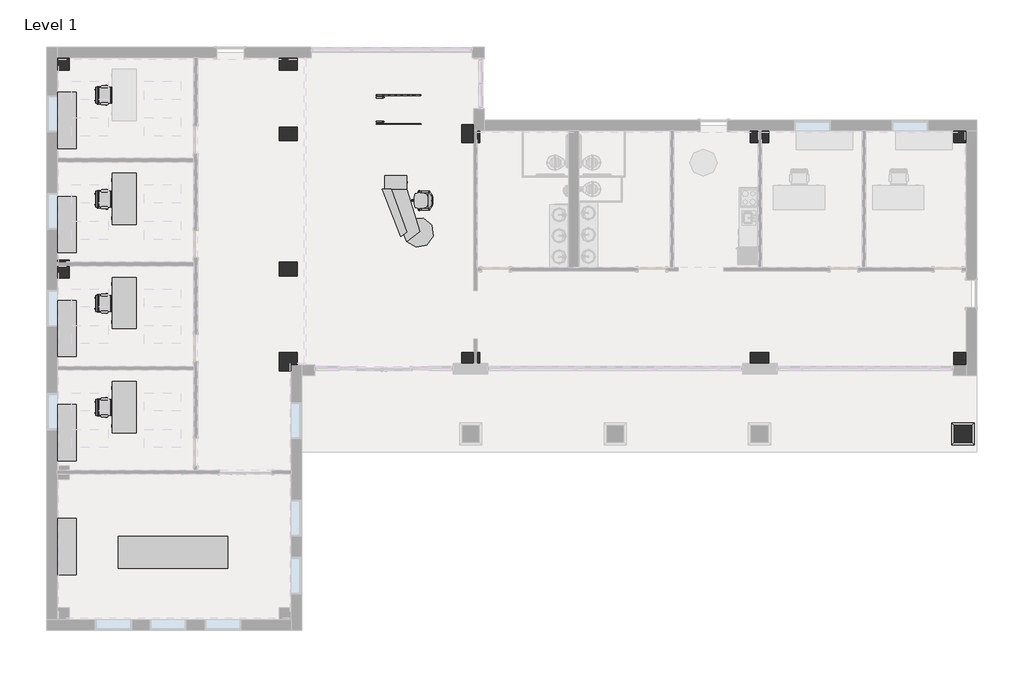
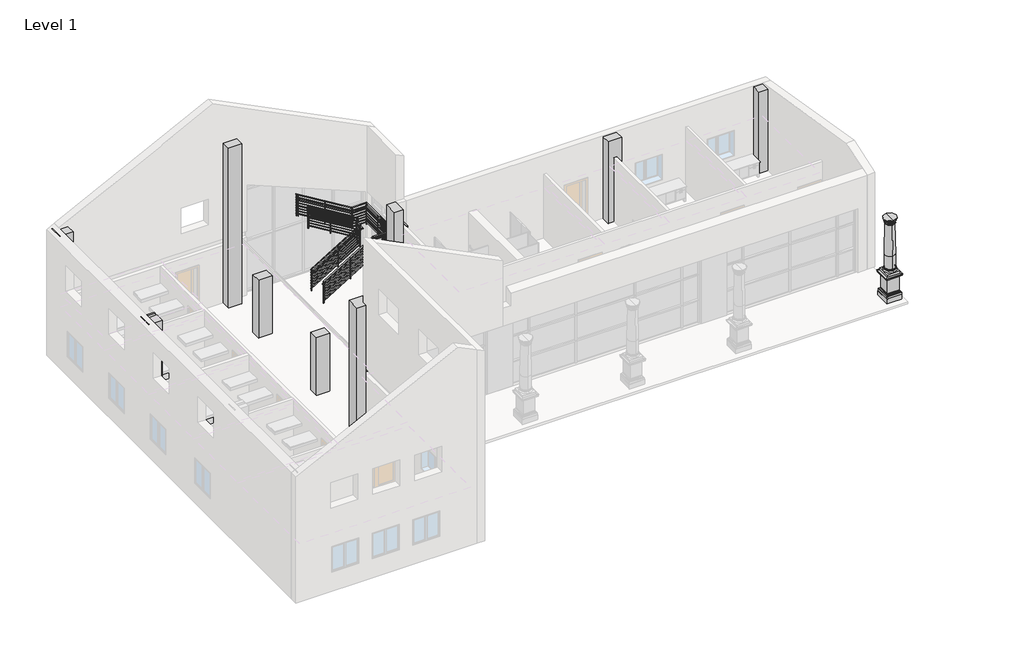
# One storey, part 7 of 8: 15 furniture elements, 13 columns, 2 railings.
"""IFC4 building model written with IfcOpenShell, lengths in millimetres."""

from ifc_helpers import new_model, si_unit, point, frame, origin, origin_with_axes, place, context, project, spatial, polyline, circle_curve, ellipse_curve, trimmed, outline, extrude, faceted_brep, transform, mapped, element, save
from ifc_brep_helpers import plane_surface, cylinder_surface, revolved_surface, advanced_brep
from components import chair_executive_chair_executive_8d69e98c, chair_task_arms_chair_task_arms_8395c10b, conference_table_complete_42_x_144_00e9c4b6, furniture_5a5a5c8e, desk_reception_desk_reception_8679d896, furniture_9d33da18, guardrail_pipe_ca991ecf, guardrail_pipe_215c56c1

model = new_model("IFC4")

# Units and contexts
model_context = context("Model", 3, world=origin())
ifc_project = project(units=[si_unit("LENGTHUNIT", "METRE", prefix="MILLI")], contexts=[model_context])

# Site, building, storey
site = spatial("IfcSite", under=ifc_project)
building = spatial("IfcBuilding", under=site)
storey = spatial("IfcBuildingStorey", under=building, Name="Level 1", Elevation=0.0)

# Columns
placement = place(None, origin())
element("IfcColumn", 1, ObjectType="Doric Column : 16'  Height (10 2/3 x Dia.)", at=placement, inside=storey, context=model_context, shape_type="SolidModel", body=[
    extrude(outline(polyline([(16988.3733448, -1720.0769576), (16988.3733448, -2297.9269576), (16410.5233448, -2297.9269576), (16410.5233448, -1720.0769576), (16988.3733448, -1720.0769576)])), frame((0.0, 0.0, 1117.6), z_axis=(0.0, 0.0, 1.0), x_axis=(1.0, 0.0, 0.0)), (0.0, 0.0, 1.0), 107.95),
    faceted_brep([(16470.8483448, -2237.6019576, 1117.6), (16327.9733448, -2380.4769576, 1117.6), (17070.9233448, -2380.4769576, 1117.6), (16928.0483448, -2237.6019576, 1117.6), (16470.8483448, -2237.6019576, 1003.3), (16928.0483448, -2237.6019576, 1003.3), (16399.5654277, -2308.8848746, 1003.3), (16999.3312619, -2308.8848746, 1003.3), (16366.0733448, -2342.3769576, 1028.7), (17032.8233448, -2342.3769576, 1028.7), (16340.6733448, -2367.7769576, 1028.7), (17058.2233448, -2367.7769576, 1028.7), (16340.6733448, -2367.7769576, 1092.2), (17058.2233448, -2367.7769576, 1092.2), (16327.9733448, -2380.4769576, 1092.2), (17070.9233448, -2380.4769576, 1092.2), (17070.9233448, -1637.5269576, 1117.6), (16928.0483448, -1780.4019576, 1117.6), (16928.0483448, -1780.4019576, 1003.3), (16999.3312619, -1709.1190405, 1003.3), (17032.8233448, -1675.6269576, 1028.7), (17058.2233448, -1650.2269576, 1028.7), (17058.2233448, -1650.2269576, 1092.2), (17070.9233448, -1637.5269576, 1092.2), (16327.9733448, -1637.5269576, 1117.6), (16470.8483448, -1780.4019576, 1117.6), (16470.8483448, -1780.4019576, 1003.3), (16399.5654277, -1709.1190405, 1003.3), (16366.0733448, -1675.6269576, 1028.7), (16340.6733448, -1650.2269576, 1028.7), (16340.6733448, -1650.2269576, 1092.2), (16327.9733448, -1637.5269576, 1092.2)], [[[0, 1, 2, 3]], [[4, 0, 3, 5]], [[6, 4, 5, 7]], [[8, 6, 7, 9]], [[10, 8, 9, 11]], [[12, 10, 11, 13]], [[14, 12, 13, 15]], [[1, 14, 15, 2]], [[3, 2, 16, 17]], [[5, 3, 17, 18]], [[7, 5, 18, 19]], [[9, 7, 19, 20]], [[11, 9, 20, 21]], [[13, 11, 21, 22]], [[15, 13, 22, 23]], [[2, 15, 23, 16]], [[17, 16, 24, 25]], [[18, 17, 25, 26]], [[19, 18, 26, 27]], [[20, 19, 27, 28]], [[21, 20, 28, 29]], [[22, 21, 29, 30]], [[23, 22, 30, 31]], [[16, 23, 31, 24]], [[25, 24, 1, 0]], [[26, 25, 0, 4]], [[27, 26, 4, 6]], [[28, 27, 6, 8]], [[29, 28, 8, 10]], [[30, 29, 10, 12]], [[31, 30, 12, 14]], [[24, 31, 14, 1]]]),
    advanced_brep(
    [(16699.4483448, -2256.6519576, 1358.9), (16699.4483448, -1761.3519576, 1358.9), (16699.4483448, -1780.4019576, 1377.95), (16699.4483448, -2237.6019576, 1377.95), (16699.4483448, -1780.4019576, 1989.5041667), (16699.4483448, -2237.6019576, 1989.5041667), (16699.4483448, -2256.6519576, 1339.85), (16699.4483448, -1761.3519576, 1339.85), (16699.4483448, -2256.6519576, 1308.1), (16699.4483448, -1761.3519576, 1308.1), (16699.4483448, -2256.6519576, 1225.55), (16699.4483448, -1761.3519576, 1225.55), (16699.4483448, -2009.0019576, 1225.55), (16699.4483448, -1808.9769576, 3479.3125), (16699.4483448, -2209.0269576, 3479.3125), (16699.4483448, -2301.1019576, 3714.2625601), (16699.4483448, -1716.9019576, 3714.2625601), (16699.4483448, -1716.9019576, 3733.3125), (16699.4483448, -2301.1019576, 3733.3125), (16699.4483448, -2009.0019576, 3733.3125), (16699.4483448, -2282.0518974, 3695.2125), (16699.4483448, -1735.9520177, 3695.2125), (16699.4483448, -2278.8769576, 3695.2125), (16699.4483448, -1739.1269576, 3695.2125), (16699.4483448, -2278.8769576, 3644.4125), (16699.4483448, -1739.1269576, 3644.4125), (16699.4483448, -2272.5269576, 3644.4125), (16699.4483448, -1745.4769576, 3644.4125), (16699.4483448, -2228.0769576, 3599.9625), (16699.4483448, -1789.9269576, 3599.9625), (16699.4483448, -2228.0769576, 3580.9125), (16699.4483448, -1789.9269576, 3580.9125), (16699.4483448, -2209.0269576, 3580.9125), (16699.4483448, -1808.9769576, 3580.9125), (16699.4483448, -2209.0269576, 3498.3625), (16699.4483448, -1808.9769576, 3498.3625), (16699.4483448, -2228.0769576, 3498.3625), (16699.4483448, -1789.9269576, 3498.3625), (16699.4483448, -2228.0769576, 3479.3125), (16699.4483448, -1789.9269576, 3479.3125)],
    [
        (0, 1, circle_curve(frame((16699.4483448, -2009.0019576, 1358.9), z_axis=(0.0, 0.0, 1.0), x_axis=(0.0, 1.0, 0.0)), 247.65)),
        (1, 2, circle_curve(frame((16699.4483448, -1761.3519576, 1377.95), z_axis=(-1.0, 0.0, 0.0), x_axis=(0.0, -1.0, 0.0)), 19.05)),
        (2, 3, circle_curve(frame((16699.4483448, -2009.0019576, 1377.95), z_axis=(0.0, 0.0, -1.0), x_axis=(0.0, 1.0, 0.0)), 228.6)),
        (3, 0, circle_curve(frame((16699.4483448, -2256.6519576, 1377.95), z_axis=(-1.0, 0.0, 0.0), x_axis=(0.0, 1.0, 0.0)), 19.05)),
        (2, 4),
        (4, 5, circle_curve(frame((16699.4483448, -2009.0019576, 1989.5041667), z_axis=(0.0, 0.0, -1.0), x_axis=(0.0, 1.0, 0.0)), 228.6)),
        (5, 3),
        (2, 3, circle_curve(frame((16699.4483448, -2009.0019576, 1377.95), z_axis=(0.0, 0.0, 1.0), x_axis=(0.0, 1.0, 0.0)), 228.6)),
        (5, 4, circle_curve(frame((16699.4483448, -2009.0019576, 1989.5041667), z_axis=(0.0, 0.0, -1.0), x_axis=(0.0, 1.0, 0.0)), 228.6)),
        (1, 0, circle_curve(frame((16699.4483448, -2009.0019576, 1358.9), z_axis=(0.0, 0.0, 1.0), x_axis=(0.0, 1.0, 0.0)), 247.65)),
        (6, 7, circle_curve(frame((16699.4483448, -2009.0019576, 1339.85), z_axis=(0.0, 0.0, 1.0), x_axis=(0.0, 1.0, 0.0)), 247.65)),
        (7, 1),
        (0, 6),
        (7, 6, circle_curve(frame((16699.4483448, -2009.0019576, 1339.85), z_axis=(0.0, 0.0, 1.0), x_axis=(0.0, 1.0, 0.0)), 247.65)),
        (8, 9, circle_curve(frame((16699.4483448, -2009.0019576, 1308.1), z_axis=(0.0, 0.0, 1.0), x_axis=(0.0, 1.0, 0.0)), 247.65)),
        (9, 7, circle_curve(frame((16699.4483448, -1761.3519576, 1323.975), z_axis=(1.0, 0.0, 0.0), x_axis=(0.0, -1.0, 0.0)), 15.875)),
        (6, 8, circle_curve(frame((16699.4483448, -2256.6519576, 1323.975), z_axis=(1.0, 0.0, 0.0), x_axis=(0.0, 1.0, 0.0)), 15.875)),
        (9, 8, circle_curve(frame((16699.4483448, -2009.0019576, 1308.1), z_axis=(0.0, 0.0, 1.0), x_axis=(0.0, 1.0, 0.0)), 247.65)),
        (10, 11, circle_curve(frame((16699.4483448, -2009.0019576, 1225.55), z_axis=(0.0, 0.0, 1.0), x_axis=(0.0, 1.0, 0.0)), 247.65)),
        (11, 9, circle_curve(frame((16699.4483448, -1761.3519576, 1266.825), z_axis=(1.0, 0.0, 0.0), x_axis=(0.0, -1.0, 0.0)), 41.275)),
        (8, 10, circle_curve(frame((16699.4483448, -2256.6519576, 1266.825), z_axis=(1.0, 0.0, 0.0), x_axis=(0.0, 1.0, 0.0)), 41.275)),
        (11, 10, circle_curve(frame((16699.4483448, -2009.0019576, 1225.55), z_axis=(0.0, 0.0, 1.0), x_axis=(0.0, 1.0, 0.0)), 247.65)),
        (12, 11),
        (10, 12),
        (4, 13),
        (13, 14, circle_curve(frame((16699.4483448, -2009.0019576, 3479.3125), z_axis=(0.0, 0.0, -1.0), x_axis=(0.0, 1.0, 0.0)), 200.025)),
        (14, 5),
        (14, 13, circle_curve(frame((16699.4483448, -2009.0019576, 3479.3125), z_axis=(0.0, 0.0, -1.0), x_axis=(0.0, 1.0, 0.0)), 200.025)),
        (15, 16, circle_curve(frame((16699.4483448, -2009.0019576, 3714.2625601), z_axis=(0.0, 0.0, 1.0), x_axis=(0.0, 1.0, 0.0)), 292.1)),
        (16, 17),
        (17, 18, circle_curve(frame((16699.4483448, -2009.0019576, 3733.3125), z_axis=(0.0, 0.0, -1.0), x_axis=(0.0, 1.0, 0.0)), 292.1)),
        (18, 15),
        (17, 19),
        (19, 18),
        (17, 18, circle_curve(frame((16699.4483448, -2009.0019576, 3733.3125), z_axis=(0.0, 0.0, 1.0), x_axis=(0.0, 1.0, 0.0)), 292.1)),
        (16, 15, circle_curve(frame((16699.4483448, -2009.0019576, 3714.2625601), z_axis=(0.0, 0.0, 1.0), x_axis=(0.0, 1.0, 0.0)), 292.1)),
        (20, 21, circle_curve(frame((16699.4483448, -2009.0019576, 3695.2125), z_axis=(0.0, 0.0, 1.0), x_axis=(0.0, 1.0, 0.0)), 273.0499399)),
        (21, 16, circle_curve(frame((16699.4483448, -1716.9019576, 3695.2125), z_axis=(-1.0, 0.0, 0.0), x_axis=(0.0, -1.0, 0.0)), 19.0500601)),
        (15, 20, circle_curve(frame((16699.4483448, -2301.1019576, 3695.2125), z_axis=(-1.0, 0.0, 0.0), x_axis=(0.0, 1.0, 0.0)), 19.0500601)),
        (21, 20, circle_curve(frame((16699.4483448, -2009.0019576, 3695.2125), z_axis=(0.0, 0.0, 1.0), x_axis=(0.0, 1.0, 0.0)), 273.0499399)),
        (22, 23, circle_curve(frame((16699.4483448, -2009.0019576, 3695.2125), z_axis=(0.0, 0.0, 1.0), x_axis=(0.0, 1.0, 0.0)), 269.875)),
        (23, 21),
        (20, 22),
        (23, 22, circle_curve(frame((16699.4483448, -2009.0019576, 3695.2125), z_axis=(0.0, 0.0, 1.0), x_axis=(0.0, 1.0, 0.0)), 269.875)),
        (24, 25, circle_curve(frame((16699.4483448, -2009.0019576, 3644.4125), z_axis=(0.0, 0.0, 1.0), x_axis=(0.0, 1.0, 0.0)), 269.875)),
        (25, 23),
        (22, 24),
        (25, 24, circle_curve(frame((16699.4483448, -2009.0019576, 3644.4125), z_axis=(0.0, 0.0, 1.0), x_axis=(0.0, 1.0, 0.0)), 269.875)),
        (26, 27, circle_curve(frame((16699.4483448, -2009.0019576, 3644.4125), z_axis=(0.0, 0.0, 1.0), x_axis=(0.0, 1.0, 0.0)), 263.525)),
        (27, 25),
        (24, 26),
        (27, 26, circle_curve(frame((16699.4483448, -2009.0019576, 3644.4125), z_axis=(0.0, 0.0, 1.0), x_axis=(0.0, 1.0, 0.0)), 263.525)),
        (28, 29, circle_curve(frame((16699.4483448, -2009.0019576, 3599.9625), z_axis=(0.0, 0.0, 1.0), x_axis=(0.0, 1.0, 0.0)), 219.075)),
        (29, 27, circle_curve(frame((16699.4483448, -1789.9269576, 3644.4125), z_axis=(1.0, 0.0, 0.0), x_axis=(0.0, -1.0, 0.0)), 44.45)),
        (26, 28, circle_curve(frame((16699.4483448, -2228.0769576, 3644.4125), z_axis=(1.0, 0.0, 0.0), x_axis=(0.0, 1.0, 0.0)), 44.45)),
        (29, 28, circle_curve(frame((16699.4483448, -2009.0019576, 3599.9625), z_axis=(0.0, 0.0, 1.0), x_axis=(0.0, 1.0, 0.0)), 219.075)),
        (30, 31, circle_curve(frame((16699.4483448, -2009.0019576, 3580.9125), z_axis=(0.0, 0.0, 1.0), x_axis=(0.0, 1.0, 0.0)), 219.075)),
        (31, 29, circle_curve(frame((16699.4483448, -1789.9269576, 3590.4375), z_axis=(1.0, 0.0, 0.0), x_axis=(0.0, -1.0, 0.0)), 9.525)),
        (28, 30, circle_curve(frame((16699.4483448, -2228.0769576, 3590.4375), z_axis=(1.0, 0.0, 0.0), x_axis=(0.0, 1.0, 0.0)), 9.525)),
        (31, 30, circle_curve(frame((16699.4483448, -2009.0019576, 3580.9125), z_axis=(0.0, 0.0, 1.0), x_axis=(0.0, 1.0, 0.0)), 219.075)),
        (32, 33, circle_curve(frame((16699.4483448, -2009.0019576, 3580.9125), z_axis=(0.0, 0.0, 1.0), x_axis=(0.0, 1.0, 0.0)), 200.025)),
        (33, 31),
        (30, 32),
        (33, 32, circle_curve(frame((16699.4483448, -2009.0019576, 3580.9125), z_axis=(0.0, 0.0, 1.0), x_axis=(0.0, 1.0, 0.0)), 200.025)),
        (34, 35, circle_curve(frame((16699.4483448, -2009.0019576, 3498.3625), z_axis=(0.0, 0.0, 1.0), x_axis=(0.0, 1.0, 0.0)), 200.025)),
        (35, 33),
        (32, 34),
        (35, 34, circle_curve(frame((16699.4483448, -2009.0019576, 3498.3625), z_axis=(0.0, 0.0, 1.0), x_axis=(0.0, 1.0, 0.0)), 200.025)),
        (36, 37, circle_curve(frame((16699.4483448, -2009.0019576, 3498.3625), z_axis=(0.0, 0.0, 1.0), x_axis=(0.0, 1.0, 0.0)), 219.075)),
        (37, 35),
        (34, 36),
        (37, 36, circle_curve(frame((16699.4483448, -2009.0019576, 3498.3625), z_axis=(0.0, 0.0, 1.0), x_axis=(0.0, 1.0, 0.0)), 219.075)),
        (38, 39, circle_curve(frame((16699.4483448, -2009.0019576, 3479.3125), z_axis=(0.0, 0.0, 1.0), x_axis=(0.0, 1.0, 0.0)), 219.075)),
        (39, 37, circle_curve(frame((16699.4483448, -1789.9269576, 3488.8375), z_axis=(1.0, 0.0, 0.0), x_axis=(0.0, -1.0, 0.0)), 9.525)),
        (36, 38, circle_curve(frame((16699.4483448, -2228.0769576, 3488.8375), z_axis=(1.0, 0.0, 0.0), x_axis=(0.0, 1.0, 0.0)), 9.525)),
        (39, 38, circle_curve(frame((16699.4483448, -2009.0019576, 3479.3125), z_axis=(0.0, 0.0, 1.0), x_axis=(0.0, 1.0, 0.0)), 219.075)),
        (13, 39),
        (38, 14),
    ],
    [
        revolved_surface(trimmed(ellipse_curve(frame((16699.4483448, -1761.3519576, 1377.95), z_axis=(1.0, 0.0, 0.0), x_axis=(0.0, -1.0, 0.0)), 19.05, 19.05), [point((16699.4483448, -1780.4019576, 1377.95))], [point((16699.4483448, -1761.3519576, 1358.9))], True, "CARTESIAN"), (16699.4483448, -2009.0019576, 3733.3125), (0.0, 0.0, -1.0)),
        cylinder_surface(frame((16699.4483448, -2009.0019576, 3733.3125), z_axis=(0.0, 0.0, -1.0), x_axis=(0.0, 1.0, 0.0)), 228.6),
        cylinder_surface(frame((16699.4483448, -2009.0019576, 3733.3125), z_axis=(0.0, 0.0, -1.0), x_axis=(0.0, 1.0, 0.0)), 247.65),
        revolved_surface(trimmed(ellipse_curve(frame((16699.4483448, -1761.3519576, 1323.975), z_axis=(-1.0, 0.0, 0.0), x_axis=(0.0, -1.0, 0.0)), 15.875, 15.875), [point((16699.4483448, -1761.3519576, 1339.85))], [point((16699.4483448, -1761.3519576, 1308.1))], True, "CARTESIAN"), (16699.4483448, -2009.0019576, 3733.3125), (0.0, 0.0, -1.0)),
        revolved_surface(trimmed(ellipse_curve(frame((16699.4483448, -1761.3519576, 1266.825), z_axis=(-1.0, 0.0, 0.0), x_axis=(0.0, -1.0, 0.0)), 41.275, 41.275), [point((16699.4483448, -1761.3519576, 1308.1))], [point((16699.4483448, -1761.3519576, 1225.55))], True, "CARTESIAN"), (16699.4483448, -2009.0019576, 3733.3125), (0.0, 0.0, -1.0)),
        plane_surface(frame((16699.4483448, -2009.0019576, 1225.55), z_axis=(0.0, 0.0, -1.0), x_axis=(0.0, 1.0, 0.0))),
        revolved_surface(polyline([(16699.4483448, -1808.9769576, 3479.3125), (16699.4483448, -1780.4019576, 1989.5041667)]), (16699.4483448, -2009.0019576, 3733.3125), (0.0, 0.0, -1.0)),
        cylinder_surface(frame((16699.4483448, -2009.0019576, 3733.3125), z_axis=(0.0, 0.0, -1.0), x_axis=(0.0, 1.0, 0.0)), 292.1),
        plane_surface(frame((16699.4483448, -2009.0019576, 3733.3125), z_axis=(0.0, 0.0, 1.0), x_axis=(0.0, 1.0, 0.0))),
        revolved_surface(trimmed(ellipse_curve(frame((16699.4483448, -1716.9019576, 3695.2125), z_axis=(1.0, 0.0, 0.0), x_axis=(0.0, -1.0, 0.0)), 19.0500601, 19.0500601), [point((16699.4483448, -1716.9019576, 3714.2625601))], [point((16699.4483448, -1735.9520177, 3695.2125))], True, "CARTESIAN"), (16699.4483448, -2009.0019576, 3733.3125), (0.0, 0.0, -1.0)),
        plane_surface(frame((16699.4483448, -2009.0019576, 3695.2125), z_axis=(0.0, 0.0, -1.0), x_axis=(0.0, 1.0, 0.0))),
        cylinder_surface(frame((16699.4483448, -2009.0019576, 3733.3125), z_axis=(0.0, 0.0, -1.0), x_axis=(0.0, 1.0, 0.0)), 269.875),
        plane_surface(frame((16699.4483448, -2009.0019576, 3644.4125), z_axis=(0.0, 0.0, -1.0), x_axis=(0.0, 1.0, 0.0))),
        revolved_surface(trimmed(ellipse_curve(frame((16699.4483448, -1789.9269576, 3644.4125), z_axis=(-1.0, 0.0, 0.0), x_axis=(0.0, -1.0, 0.0)), 44.45, 44.45), [point((16699.4483448, -1745.4769576, 3644.4125))], [point((16699.4483448, -1789.9269576, 3599.9625))], True, "CARTESIAN"), (16699.4483448, -2009.0019576, 3733.3125), (0.0, 0.0, -1.0)),
        revolved_surface(trimmed(ellipse_curve(frame((16699.4483448, -1789.9269576, 3590.4375), z_axis=(-1.0, 0.0, 0.0), x_axis=(0.0, -1.0, 0.0)), 9.525, 9.525), [point((16699.4483448, -1789.9269576, 3599.9625))], [point((16699.4483448, -1789.9269576, 3580.9125))], True, "CARTESIAN"), (16699.4483448, -2009.0019576, 3733.3125), (0.0, 0.0, -1.0)),
        plane_surface(frame((16699.4483448, -2009.0019576, 3580.9125), z_axis=(0.0, 0.0, -1.0), x_axis=(0.0, 1.0, 0.0))),
        cylinder_surface(frame((16699.4483448, -2009.0019576, 3733.3125), z_axis=(0.0, 0.0, -1.0), x_axis=(0.0, 1.0, 0.0)), 200.025),
        plane_surface(frame((16699.4483448, -2009.0019576, 3498.3625), z_axis=(0.0, 0.0, 1.0), x_axis=(0.0, 1.0, 0.0))),
        revolved_surface(trimmed(ellipse_curve(frame((16699.4483448, -1789.9269576, 3488.8375), z_axis=(-1.0, 0.0, 0.0), x_axis=(0.0, -1.0, 0.0)), 9.525, 9.525), [point((16699.4483448, -1789.9269576, 3498.3625))], [point((16699.4483448, -1789.9269576, 3479.3125))], True, "CARTESIAN"), (16699.4483448, -2009.0019576, 3733.3125), (0.0, 0.0, -1.0)),
        plane_surface(frame((16699.4483448, -2009.0019576, 3479.3125), z_axis=(0.0, 0.0, -1.0), x_axis=(0.0, 1.0, 0.0))),
    ],
    [
        (0, [[1, 2, 3, 4]]),
        (1, [[-3, 5, 6, 7]]),
        (1, [[8, -7, 9, -5]]),
        (0, [[10, -4, -8, -2]]),
        (2, [[11, 12, -1, 13]]),
        (2, [[14, -13, -10, -12]]),
        (3, [[15, 16, -11, 17]]),
        (3, [[18, -17, -14, -16]]),
        (4, [[19, 20, -15, 21]]),
        (4, [[22, -21, -18, -20]]),
        (5, [[23, -19, 24]]),
        (5, [[-24, -22, -23]]),
        (6, [[-6, 25, 26, 27]]),
        (6, [[-9, -27, 28, -25]]),
        (7, [[29, 30, 31, 32]]),
        (8, [[-31, 33, 34]]),
        (8, [[35, -34, -33]]),
        (7, [[36, -32, -35, -30]]),
        (9, [[37, 38, -29, 39]]),
        (9, [[40, -39, -36, -38]]),
        (10, [[41, 42, -37, 43]]),
        (10, [[44, -43, -40, -42]]),
        (11, [[45, 46, -41, 47]]),
        (11, [[48, -47, -44, -46]]),
        (12, [[49, 50, -45, 51]]),
        (12, [[52, -51, -48, -50]]),
        (13, [[53, 54, -49, 55]]),
        (13, [[56, -55, -52, -54]]),
        (14, [[57, 58, -53, 59]]),
        (14, [[60, -59, -56, -58]]),
        (15, [[61, 62, -57, 63]]),
        (15, [[64, -63, -60, -62]]),
        (16, [[65, 66, -61, 67]]),
        (16, [[68, -67, -64, -66]]),
        (17, [[69, 70, -65, 71]]),
        (17, [[72, -71, -68, -70]]),
        (18, [[73, 74, -69, 75]]),
        (18, [[76, -75, -72, -74]]),
        (19, [[-26, 77, -73, 78]]),
        (19, [[-28, -78, -76, -77]]),
    ],
),
    advanced_brep(
    [(17044.8934911, -1663.5568112, -101.6), (17044.8934911, -1663.5568112, 127.0), (17044.8934911, -2354.4471039, 127.0), (17044.8934911, -2354.4471039, -101.6), (16928.0483448, -1780.4019576, -101.6), (16928.0483448, -2237.6019576, -101.6), (16928.0483448, -1780.4019576, 317.5), (16928.0483448, -2237.6019576, 317.5), (16962.3434911, -1746.1068112, 317.5), (16962.3434911, -2271.8971039, 317.5), (16981.3934911, -1727.0568112, 298.45), (16981.3934911, -2290.9471039, 298.45), (16981.3934911, -1727.0568112, 279.4), (16981.3934911, -2290.9471039, 279.4), (17003.6184911, -1704.8318112, 257.175), (17003.6184911, -2313.1721039, 257.175), (17025.8434911, -1682.6068112, 234.95), (17025.8434911, -2335.3971039, 234.95), (17025.8434911, -1682.6068112, 215.9), (17025.8434911, -2335.3971039, 215.9), (17035.3684911, -1673.0818112, 215.9), (17035.3684911, -2344.9221039, 215.9), (17035.3684911, -1673.0818112, 127.0), (17035.3684911, -2344.9221039, 127.0), (16354.0031985, -2354.4471039, 127.0), (16354.0031985, -2354.4471039, -101.6), (16470.8483448, -2237.6019576, -101.6), (16470.8483448, -2237.6019576, 317.5), (16436.5531985, -2271.8971039, 317.5), (16417.5031985, -2290.9471039, 298.45), (16417.5031985, -2290.9471039, 279.4), (16395.2781985, -2313.1721039, 257.175), (16373.0531985, -2335.3971039, 234.95), (16373.0531985, -2335.3971039, 215.9), (16363.5281985, -2344.9221039, 215.9), (16363.5281985, -2344.9221039, 127.0), (16354.0031985, -1663.5568112, 127.0), (16354.0031985, -1663.5568112, -101.6), (16470.8483448, -1780.4019576, -101.6), (16470.8483448, -1780.4019576, 317.5), (16436.5531985, -1746.1068112, 317.5), (16417.5031985, -1727.0568112, 298.45), (16417.5031985, -1727.0568112, 279.4), (16395.2781985, -1704.8318112, 257.175), (16373.0531985, -1682.6068112, 234.95), (16373.0531985, -1682.6068112, 215.9), (16363.5281985, -1673.0818112, 215.9), (16363.5281985, -1673.0818112, 127.0)],
    [
        (0, 1),
        (1, 2),
        (2, 3),
        (3, 0),
        (4, 0),
        (3, 5),
        (5, 4),
        (6, 4),
        (5, 7),
        (7, 6),
        (8, 6),
        (7, 9),
        (9, 8),
        (10, 8, ellipse_curve(frame((16981.3934911, -1727.0568112, 317.5), z_axis=(-0.7071067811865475, 0.7071067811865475, 0.0), x_axis=(-0.7071067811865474, -0.7071067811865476, 0.0)), 26.9407684, 19.05)),
        (9, 11, ellipse_curve(frame((16981.3934911, -2290.9471039, 317.5), z_axis=(-0.7071067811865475, -0.7071067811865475, 0.0), x_axis=(0.7071067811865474, -0.7071067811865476, 0.0)), 26.9407684, 19.05)),
        (11, 10),
        (12, 10),
        (11, 13),
        (13, 12),
        (14, 12, ellipse_curve(frame((16981.3934911, -1727.0568112, 257.175), z_axis=(0.7071067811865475, -0.7071067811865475, 0.0), x_axis=(0.7071067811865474, 0.7071067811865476, 0.0)), 31.4308964, 22.225)),
        (13, 15, ellipse_curve(frame((16981.3934911, -2290.9471039, 257.175), z_axis=(0.7071067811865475, 0.7071067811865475, 0.0), x_axis=(-0.7071067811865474, 0.7071067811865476, 0.0)), 31.4308964, 22.225)),
        (15, 14),
        (16, 14, ellipse_curve(frame((17025.8434911, -1682.6068112, 257.175), z_axis=(-0.7071067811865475, 0.7071067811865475, 0.0), x_axis=(-0.7071067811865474, -0.7071067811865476, 0.0)), 31.4308964, 22.225)),
        (15, 17, ellipse_curve(frame((17025.8434911, -2335.3971039, 257.175), z_axis=(-0.7071067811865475, -0.7071067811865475, 0.0), x_axis=(0.7071067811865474, -0.7071067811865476, 0.0)), 31.4308964, 22.225)),
        (17, 16),
        (18, 16),
        (17, 19),
        (19, 18),
        (20, 18),
        (19, 21),
        (21, 20),
        (22, 20),
        (21, 23),
        (23, 22),
        (1, 22),
        (23, 2),
        (2, 24),
        (24, 25),
        (25, 3),
        (25, 26),
        (26, 5),
        (26, 27),
        (27, 7),
        (27, 28),
        (28, 9),
        (28, 29, ellipse_curve(frame((16417.5031985, -2290.9471039, 317.5), z_axis=(-0.7071067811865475, 0.7071067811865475, 0.0), x_axis=(-0.7071067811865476, -0.7071067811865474, 0.0)), 26.9407684, 19.05)),
        (29, 11),
        (29, 30),
        (30, 13),
        (30, 31, ellipse_curve(frame((16417.5031985, -2290.9471039, 257.175), z_axis=(0.7071067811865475, -0.7071067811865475, 0.0), x_axis=(0.7071067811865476, 0.7071067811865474, 0.0)), 31.4308964, 22.225)),
        (31, 15),
        (31, 32, ellipse_curve(frame((16373.0531985, -2335.3971039, 257.175), z_axis=(-0.7071067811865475, 0.7071067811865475, 0.0), x_axis=(-0.7071067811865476, -0.7071067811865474, 0.0)), 31.4308964, 22.225)),
        (32, 17),
        (32, 33),
        (33, 19),
        (33, 34),
        (34, 21),
        (34, 35),
        (35, 23),
        (35, 24),
        (24, 36),
        (36, 37),
        (37, 25),
        (37, 38),
        (38, 26),
        (38, 39),
        (39, 27),
        (39, 40),
        (40, 28),
        (40, 41, ellipse_curve(frame((16417.5031985, -1727.0568112, 317.5), z_axis=(0.7071067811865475, 0.7071067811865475, 0.0), x_axis=(-0.7071067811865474, 0.7071067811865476, 0.0)), 26.9407684, 19.05)),
        (41, 29),
        (41, 42),
        (42, 30),
        (42, 43, ellipse_curve(frame((16417.5031985, -1727.0568112, 257.175), z_axis=(-0.7071067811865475, -0.7071067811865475, 0.0), x_axis=(0.7071067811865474, -0.7071067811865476, 0.0)), 31.4308964, 22.225)),
        (43, 31),
        (43, 44, ellipse_curve(frame((16373.0531985, -1682.6068112, 257.175), z_axis=(0.7071067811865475, 0.7071067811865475, 0.0), x_axis=(-0.7071067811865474, 0.7071067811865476, 0.0)), 31.4308964, 22.225)),
        (44, 32),
        (44, 45),
        (45, 33),
        (45, 46),
        (46, 34),
        (46, 47),
        (47, 35),
        (47, 36),
        (36, 1),
        (0, 37),
        (4, 38),
        (6, 39),
        (8, 40),
        (10, 41),
        (12, 42),
        (14, 43),
        (16, 44),
        (18, 45),
        (20, 46),
        (22, 47),
    ],
    [
        plane_surface(frame((17044.8934911, -1663.5568112, 127.0), z_axis=(1.0, 0.0, 0.0), x_axis=(0.0, -1.0, 0.0))),
        plane_surface(frame((17044.8934911, -1663.5568112, -101.6), z_axis=(0.0, 0.0, -1.0), x_axis=(0.0, -1.0, 0.0))),
        plane_surface(frame((16928.0483448, -1780.4019576, -101.6), z_axis=(-1.0, 0.0, 0.0), x_axis=(0.0, -1.0, 0.0))),
        plane_surface(frame((16928.0483448, -1780.4019576, 317.5), z_axis=(0.0, 0.0, 1.0), x_axis=(0.0, -1.0, 0.0))),
        revolved_surface(polyline([(17000.4434911, -2309.9971039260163, 317.5), (17000.4434911, -1708.0068111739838, 317.5)]), (16981.3934911, -1650.5418844, 317.5), (0.0, -1.0, 0.0)),
        plane_surface(frame((16981.3934911, -1727.0568112, 298.45), z_axis=(1.0, 0.0, 0.0), x_axis=(0.0, -1.0, 0.0))),
        cylinder_surface(frame((16981.3934911, -1650.5418844, 257.175), z_axis=(0.0, 1.0, 0.0), x_axis=(1.0, 0.0, 0.0)), 22.225),
        revolved_surface(polyline([(17048.0684911, -2357.622103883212, 257.175), (17048.0684911, -1660.3818112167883, 257.175)]), (17025.8434911, -1650.5418844, 257.175), (0.0, -1.0, 0.0)),
        plane_surface(frame((17025.8434911, -1682.6068112, 234.95), z_axis=(1.0, 0.0, 0.0), x_axis=(0.0, -1.0, 0.0))),
        plane_surface(frame((17025.8434911, -1682.6068112, 215.9), z_axis=(0.0, 0.0, 1.0), x_axis=(0.0, -1.0, 0.0))),
        plane_surface(frame((17035.3684911, -1673.0818112, 215.9), z_axis=(1.0, 0.0, 0.0), x_axis=(0.0, -1.0, 0.0))),
        plane_surface(frame((17035.3684911, -1673.0818112, 127.0), z_axis=(0.0, 0.0, 1.0), x_axis=(0.0, -1.0, 0.0))),
        plane_surface(frame((17044.8934911, -2354.4471039, 127.0), z_axis=(0.0, -1.0, 0.0), x_axis=(-1.0, 0.0, 0.0))),
        plane_surface(frame((17044.8934911, -2354.4471039, -101.6), z_axis=(0.0, 0.0, -1.0), x_axis=(-1.0, 0.0, 0.0))),
        plane_surface(frame((16928.0483448, -2237.6019576, -101.6), z_axis=(0.0, 1.0, 0.0), x_axis=(-1.0, 0.0, 0.0))),
        plane_surface(frame((16928.0483448, -2237.6019576, 317.5), z_axis=(0.0, 0.0, 1.0), x_axis=(-1.0, 0.0, 0.0))),
        revolved_surface(polyline([(16398.45319847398, -2309.9971039, 317.5), (17000.443491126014, -2309.9971039, 317.5)]), (17057.908418, -2290.9471039, 317.5), (-1.0, 0.0, 0.0)),
        plane_surface(frame((16981.3934911, -2290.9471039, 298.45), z_axis=(0.0, -1.0, 0.0), x_axis=(-1.0, 0.0, 0.0))),
        cylinder_surface(frame((17057.908418, -2290.9471039, 257.175), z_axis=(1.0, 0.0, 0.0), x_axis=(0.0, -1.0, 0.0)), 22.225),
        revolved_surface(polyline([(16350.828198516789, -2357.6221038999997, 257.175), (17048.068491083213, -2357.6221038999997, 257.175)]), (17057.908418, -2335.3971039, 257.175), (-1.0, 0.0, 0.0)),
        plane_surface(frame((17025.8434911, -2335.3971039, 234.95), z_axis=(0.0, -1.0, 0.0), x_axis=(-1.0, 0.0, 0.0))),
        plane_surface(frame((17025.8434911, -2335.3971039, 215.9), z_axis=(0.0, 0.0, 1.0), x_axis=(-1.0, 0.0, 0.0))),
        plane_surface(frame((17035.3684911, -2344.9221039, 215.9), z_axis=(0.0, -1.0, 0.0), x_axis=(-1.0, 0.0, 0.0))),
        plane_surface(frame((17035.3684911, -2344.9221039, 127.0), z_axis=(0.0, 0.0, 1.0), x_axis=(-1.0, 0.0, 0.0))),
        plane_surface(frame((16354.0031985, -2354.4471039, 127.0), z_axis=(-1.0, 0.0, 0.0), x_axis=(0.0, 1.0, 0.0))),
        plane_surface(frame((16354.0031985, -2354.4471039, -101.6), z_axis=(0.0, 0.0, -1.0), x_axis=(0.0, 1.0, 0.0))),
        plane_surface(frame((16470.8483448, -2237.6019576, -101.6), z_axis=(1.0, 0.0, 0.0), x_axis=(0.0, 1.0, 0.0))),
        plane_surface(frame((16470.8483448, -2237.6019576, 317.5), z_axis=(0.0, 0.0, 1.0), x_axis=(0.0, 1.0, 0.0))),
        revolved_surface(polyline([(16398.4531985, -1708.0068111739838, 317.5), (16398.4531985, -2309.9971039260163, 317.5)]), (16417.5031985, -2367.4620307, 317.5), (0.0, 1.0, 0.0)),
        plane_surface(frame((16417.5031985, -2290.9471039, 298.45), z_axis=(-1.0, 0.0, 0.0), x_axis=(0.0, 1.0, 0.0))),
        cylinder_surface(frame((16417.5031985, -2367.4620307, 257.175), z_axis=(0.0, -1.0, 0.0), x_axis=(-1.0, 0.0, 0.0)), 22.225),
        revolved_surface(polyline([(16350.8281985, -1660.3818112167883, 257.175), (16350.8281985, -2357.622103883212, 257.175)]), (16373.0531985, -2367.4620307, 257.175), (0.0, 1.0, 0.0)),
        plane_surface(frame((16373.0531985, -2335.3971039, 234.95), z_axis=(-1.0, 0.0, 0.0), x_axis=(0.0, 1.0, 0.0))),
        plane_surface(frame((16373.0531985, -2335.3971039, 215.9), z_axis=(0.0, 0.0, 1.0), x_axis=(0.0, 1.0, 0.0))),
        plane_surface(frame((16363.5281985, -2344.9221039, 215.9), z_axis=(-1.0, 0.0, 0.0), x_axis=(0.0, 1.0, 0.0))),
        plane_surface(frame((16363.5281985, -2344.9221039, 127.0), z_axis=(0.0, 0.0, 1.0), x_axis=(0.0, 1.0, 0.0))),
        plane_surface(frame((16354.0031985, -1663.5568112, 127.0), z_axis=(0.0, 1.0, 0.0), x_axis=(1.0, 0.0, 0.0))),
        plane_surface(frame((16354.0031985, -1663.5568112, -101.6), z_axis=(0.0, 0.0, -1.0), x_axis=(1.0, 0.0, 0.0))),
        plane_surface(frame((16470.8483448, -1780.4019576, -101.6), z_axis=(0.0, -1.0, 0.0), x_axis=(1.0, 0.0, 0.0))),
        plane_surface(frame((16470.8483448, -1780.4019576, 317.5), z_axis=(0.0, 0.0, 1.0), x_axis=(1.0, 0.0, 0.0))),
        revolved_surface(polyline([(17000.443491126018, -1708.0068112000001, 317.5), (16398.453198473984, -1708.0068112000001, 317.5)]), (16340.9882717, -1727.0568112, 317.5), (1.0, 0.0, 0.0)),
        plane_surface(frame((16417.5031985, -1727.0568112, 298.45), z_axis=(0.0, 1.0, 0.0), x_axis=(1.0, 0.0, 0.0))),
        cylinder_surface(frame((16340.9882717, -1727.0568112, 257.175), z_axis=(-1.0, 0.0, 0.0), x_axis=(0.0, 1.0, 0.0)), 22.225),
        revolved_surface(polyline([(17048.068491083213, -1660.3818112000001, 257.175), (16350.828198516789, -1660.3818112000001, 257.175)]), (16340.9882717, -1682.6068112, 257.175), (1.0, 0.0, 0.0)),
        plane_surface(frame((16373.0531985, -1682.6068112, 234.95), z_axis=(0.0, 1.0, 0.0), x_axis=(1.0, 0.0, 0.0))),
        plane_surface(frame((16373.0531985, -1682.6068112, 215.9), z_axis=(0.0, 0.0, 1.0), x_axis=(1.0, 0.0, 0.0))),
        plane_surface(frame((16363.5281985, -1673.0818112, 215.9), z_axis=(0.0, 1.0, 0.0), x_axis=(1.0, 0.0, 0.0))),
        plane_surface(frame((16363.5281985, -1673.0818112, 127.0), z_axis=(0.0, 0.0, 1.0), x_axis=(1.0, 0.0, 0.0))),
    ],
    [
        (0, [[1, 2, 3, 4]]),
        (1, [[5, -4, 6, 7]]),
        (2, [[8, -7, 9, 10]]),
        (3, [[11, -10, 12, 13]]),
        (4, [[14, -13, 15, 16]]),
        (5, [[17, -16, 18, 19]]),
        (6, [[20, -19, 21, 22]]),
        (7, [[23, -22, 24, 25]]),
        (8, [[26, -25, 27, 28]]),
        (9, [[29, -28, 30, 31]]),
        (10, [[32, -31, 33, 34]]),
        (11, [[35, -34, 36, -2]]),
        (12, [[-3, 37, 38, 39]]),
        (13, [[-6, -39, 40, 41]]),
        (14, [[-9, -41, 42, 43]]),
        (15, [[-12, -43, 44, 45]]),
        (16, [[-15, -45, 46, 47]]),
        (17, [[-18, -47, 48, 49]]),
        (18, [[-21, -49, 50, 51]]),
        (19, [[-24, -51, 52, 53]]),
        (20, [[-27, -53, 54, 55]]),
        (21, [[-30, -55, 56, 57]]),
        (22, [[-33, -57, 58, 59]]),
        (23, [[-36, -59, 60, -37]]),
        (24, [[-38, 61, 62, 63]]),
        (25, [[-40, -63, 64, 65]]),
        (26, [[-42, -65, 66, 67]]),
        (27, [[-44, -67, 68, 69]]),
        (28, [[-46, -69, 70, 71]]),
        (29, [[-48, -71, 72, 73]]),
        (30, [[-50, -73, 74, 75]]),
        (31, [[-52, -75, 76, 77]]),
        (32, [[-54, -77, 78, 79]]),
        (33, [[-56, -79, 80, 81]]),
        (34, [[-58, -81, 82, 83]]),
        (35, [[-60, -83, 84, -61]]),
        (36, [[-62, 85, -1, 86]]),
        (37, [[-64, -86, -5, 87]]),
        (38, [[-66, -87, -8, 88]]),
        (39, [[-68, -88, -11, 89]]),
        (40, [[-70, -89, -14, 90]]),
        (41, [[-72, -90, -17, 91]]),
        (42, [[-74, -91, -20, 92]]),
        (43, [[-76, -92, -23, 93]]),
        (44, [[-78, -93, -26, 94]]),
        (45, [[-80, -94, -29, 95]]),
        (46, [[-82, -95, -32, 96]]),
        (47, [[-84, -96, -35, -85]]),
    ],
),
    extrude(outline(polyline([(16962.9733448, -1745.4769576), (16962.9733448, -2272.5269576), (16435.9233448, -2272.5269576), (16435.9233448, -1745.4769576), (16962.9733448, -1745.4769576)])), frame((0.0, 0.0, 317.5), z_axis=(0.0, 0.0, 1.0), x_axis=(1.0, 0.0, 0.0)), (0.0, 0.0, 1.0), 685.8),
])
element("IfcColumn", 2, ObjectType="Rectangular Column : 18\" x 24\"", at=placement, inside=storey, context=model_context, shape_type="Brep", body=[
    faceted_brep([(-5550.9516552, 3729.8105424, 2755.2), (-6160.5516552, 3729.8105424, 2755.2), (-6160.5516552, 3272.6105424, 2755.2), (-5550.9516552, 3272.6105424, 2755.2), (-5550.9516552, 3729.8105424, 0.0), (-5550.9516552, 3272.6105424, 0.0), (-6160.5516552, 3272.6105424, 0.0), (-6160.5516552, 3729.8105424, 0.0), (-5550.9516552, 3729.8105424, 2647.95), (-5550.9516552, 3729.8105424, 2540.0), (-6160.5516552, 3729.8105424, 2540.0), (-6160.5516552, 3729.8105424, 2647.95), (-6160.5516552, 3272.6105424, 2540.0), (-6160.5516552, 3272.6105424, 2647.95), (-5550.9516552, 3272.6105424, 2540.0), (-5550.9516552, 3272.6105424, 2647.95)], [[[0, 1, 2, 3]], [[4, 5, 6, 7]], [[1, 0, 8, 9, 4, 7, 10, 11]], [[2, 1, 11, 10, 7, 6, 12, 13]], [[3, 2, 13, 12, 6, 5, 14, 15]], [[0, 3, 15, 14, 5, 4, 9, 8]]]),
])
element("IfcColumn", 3, ObjectType="Rectangular Column : 18\" x 24\"", at=placement, inside=storey, context=model_context, shape_type="Brep", body=[
    faceted_brep([(-5550.9516552, 8257.3605424, 2755.2), (-6160.5516552, 8257.3605424, 2755.2), (-6160.5516552, 7800.1605424, 2755.2), (-5550.9516552, 7800.1605424, 2755.2), (-5550.9516552, 8257.3605424, 0.0), (-5550.9516552, 7800.1605424, 0.0), (-6160.5516552, 7800.1605424, 0.0), (-6160.5516552, 8257.3605424, 0.0), (-5550.9516552, 8257.3605424, 2647.95), (-5550.9516552, 8257.3605424, 2540.0), (-6160.5516552, 8257.3605424, 2540.0), (-6160.5516552, 8257.3605424, 2647.95), (-6160.5516552, 7800.1605424, 2540.0), (-6160.5516552, 7800.1605424, 2647.95), (-5550.9516552, 7800.1605424, 2540.0), (-5550.9516552, 7800.1605424, 2647.95)], [[[0, 1, 2, 3]], [[4, 5, 6, 7]], [[1, 0, 8, 9, 4, 7, 10, 11]], [[2, 1, 11, 10, 7, 6, 12, 13]], [[3, 2, 13, 12, 6, 5, 14, 15]], [[0, 3, 15, 14, 5, 4, 9, 8]]]),
])
element("IfcColumn", 4, ObjectType="Rectangular Column : 24\" x 24\"", at=placement, inside=storey, context=model_context, shape_type="Brep", body=[
    faceted_brep([(-13583.7016552, 10156.0105424, 6100.0), (-13170.9516552, 10156.0105424, 6100.0), (-13170.9516552, 10568.7605424, 6100.0), (-13583.7016552, 10568.7605424, 6100.0), (-13170.9516552, 10156.0105424, 0.0), (-13583.7016552, 10156.0105424, 0.0), (-13583.7016552, 10568.7605424, 0.0), (-13170.9516552, 10568.7605424, 0.0), (-13583.7016552, 10568.7605424, 3060.0), (-13583.7016552, 10568.7605424, 2755.2)], [[[0, 1, 2, 3]], [[4, 5, 6, 7]], [[1, 4, 7, 2]], [[5, 0, 3, 8, 9, 6]], [[4, 1, 0, 5]], [[3, 2, 7, 6, 9, 8]]]),
    faceted_brep([(-13780.5516552, 10156.0105424, 6100.0), (-13780.5516552, 10765.6105424, 6100.0), (-13780.5516552, 10765.6105424, 6084.125), (-13780.5516552, 10156.0105424, 6084.125), (-13748.8016552, 10156.0105424, 6100.0), (-13748.8016552, 10765.6105424, 6100.0)], [[[0, 1, 2, 3]], [[4, 0, 3]], [[5, 4, 3, 2]], [[1, 0, 4, 5]], [[1, 5, 2]]]),
])
element("IfcColumn", 5, ObjectType="Rectangular Column : 24\" x 24\"", at=placement, inside=storey, context=model_context, shape_type="SweptSolid", body=[
    extrude(outline(polyline([(3729.8105424, 6100.0), (3806.0105424, 6100.0), (3806.0105424, 0.0), (3729.8105424, 0.0), (3729.8105424, 2755.2), (3605.9855424, 2755.2), (3605.9855424, 0.0), (3196.4105424, 0.0), (3196.4105424, 6100.0), (3605.9855424, 6100.0), (3605.9855424, 3060.0), (3729.8105424, 3060.0), (3729.8105424, 6100.0)])), frame((-13583.7016552, 0.0, 0.0), z_axis=(1.0, 0.0, 0.0), x_axis=(0.0, 1.0, 0.0)), (0.0, 0.0, 1.0), 412.75),
    extrude(outline(polyline([(6100.0, -13748.8016552), (6100.0, -13780.5516552), (6084.125, -13780.5516552), (6100.0, -13748.8016552)])), frame((0.0, 3196.4105424, 0.0), z_axis=(0.0, 1.0, 0.0), x_axis=(0.0, 0.0, 1.0)), (0.0, 0.0, 1.0), 609.6),
])
element("IfcColumn", 6, ObjectType="Rectangular Column : 24\" x 24\"", at=placement, inside=storey, context=model_context, shape_type="Brep", body=[
    faceted_brep([(-5550.9516552, 707.2105424, 6100.0), (-6160.5516552, 707.2105424, 6100.0), (-6160.5516552, 97.6105424, 6100.0), (-5754.1516552, 97.6105424, 6100.0), (-5754.1516552, 300.8105424, 6100.0), (-5550.9516552, 300.8105424, 6100.0), (-6160.5516552, 97.6105424, 0.0), (-6160.5516552, 707.2105424, 0.0), (-5550.9516552, 707.2105424, 0.0), (-5550.9516552, 300.8105424, 0.0), (-5754.1516552, 300.8105424, 0.0), (-5754.1516552, 97.6105424, 0.0), (-5754.1516552, 300.8105424, 2755.2), (-5754.1516552, 300.8105424, 3060.0)], [[[0, 1, 2, 3, 4, 5]], [[6, 7, 8, 9, 10, 11]], [[1, 0, 8, 7]], [[2, 1, 7, 6]], [[2, 6, 11, 3]], [[8, 0, 5, 9]], [[10, 12, 13, 4, 3, 11]], [[4, 13, 12, 10, 9, 5]]]),
])
element("IfcColumn", 7, ObjectType="Rectangular Column : 24\" x 24\"", at=placement, inside=storey, context=model_context, shape_type="Brep", body=[
    faceted_brep([(-64.5516552, 8333.5605424, 3900.0), (-64.5516552, 7723.9605424, 3900.0), (341.8483448, 7723.9605424, 3900.0), (341.8483448, 8130.3605424, 3900.0), (341.8483448, 8333.5605424, 3900.0), (-64.5516552, 7723.9605424, 0.0), (-64.5516552, 8333.5605424, 0.0), (341.8483448, 8333.5605424, 0.0), (341.8483448, 8130.3605424, 0.0), (341.8483448, 7723.9605424, 0.0), (341.8483448, 7723.9605424, 3060.0), (341.8483448, 8130.3605424, 3060.0)], [[[0, 1, 2, 3, 4]], [[5, 6, 7, 8, 9]], [[6, 0, 4, 7]], [[1, 0, 6, 5]], [[1, 5, 9, 10, 2]], [[9, 8, 11, 10]], [[3, 2, 10, 11]], [[4, 3, 11, 8, 7]]]),
    faceted_brep([(545.0483448, 7723.9605424, 3060.0), (545.0483448, 7723.9605424, 0.0), (545.0483448, 8130.3605424, 0.0), (545.0483448, 8130.3605424, 3060.0), (465.6733448, 8130.3605424, 0.0), (465.6733448, 7723.9605424, 0.0), (465.6733448, 7723.9605424, 3060.0), (465.6733448, 8130.3605424, 3060.0)], [[[0, 1, 2, 3]], [[4, 5, 6, 7]], [[6, 0, 3, 7]], [[5, 1, 0, 6]], [[1, 5, 4, 2]], [[2, 4, 7, 3]]]),
])
element("IfcColumn", 8, ObjectType="Rectangular Column : 24\" x 24\"", at=placement, inside=storey, context=model_context, shape_type="SweptSolid", body=[
    extrude(outline(polyline([(3900.0, 10197.0483448), (3900.0, 9587.4483448), (0.0, 9587.4483448), (0.0, 9847.7983448), (3060.0, 9847.7983448), (3060.0, 9971.6233448), (0.0, 9971.6233448), (0.0, 10197.0483448), (3900.0, 10197.0483448)])), frame((0.0, 7723.9605424, 0.0), z_axis=(0.0, 1.0, 0.0), x_axis=(0.0, 0.0, 1.0)), (0.0, 0.0, 1.0), 406.4),
])
element("IfcColumn", 9, ObjectType="Rectangular Column : 24\" x 24\"", at=placement, inside=storey, context=model_context, shape_type="SweptSolid", body=[
    extrude(outline(polyline([(16394.6483448, 7723.9605424), (16394.6483448, 8130.3605424), (16801.0483448, 8130.3605424), (16801.0483448, 7723.9605424), (16394.6483448, 7723.9605424)])), origin_with_axes(), (0.0, 0.0, 1.0), 3900.0),
])
element("IfcColumn", 10, ObjectType="Rectangular Column : 24\" x 24\"", at=placement, inside=storey, context=model_context, shape_type="SweptSolid", body=[
    extrude(outline(polyline([(16394.6483448, 707.2105424), (16801.0483448, 707.2105424), (16801.0483448, 300.8105424), (16394.6483448, 300.8105424), (16394.6483448, 707.2105424)])), origin_with_axes(), (0.0, 0.0, 1.0), 3900.0),
])
element("IfcColumn", 11, ObjectType="Rectangular Column : 24\" x 24\"", at=placement, inside=storey, context=model_context, shape_type="SweptSolid", body=[
    extrude(outline(polyline([(707.2105424, 3900.0), (707.2105424, 0.0), (351.6105424, 0.0), (351.6105424, 3060.0), (300.8105424, 3060.0), (300.8105424, 3900.0), (707.2105424, 3900.0)])), frame((9587.4483448, 0.0, 0.0), z_axis=(1.0, 0.0, 0.0), x_axis=(0.0, 1.0, 0.0)), (0.0, 0.0, 1.0), 609.6),
])
element("IfcColumn", 12, ObjectType="Rectangular Column : 24\" x 24\"", at=placement, inside=storey, context=model_context, shape_type="SweptSolid", body=[
    extrude(outline(polyline([(-5550.9516552, 10156.0105424), (-6160.5516552, 10156.0105424), (-6160.5516552, 10568.7605424), (-5550.9516552, 10568.7605424), (-5550.9516552, 10156.0105424)])), origin_with_axes(), (0.0, 0.0, 1.0), 7632.0),
])
element("IfcColumn", 13, ObjectType="Rectangular Column : 24\" x 24\"", at=placement, inside=storey, context=model_context, shape_type="SweptSolid", body=[
    extrude(outline(polyline([(545.0483448, 707.2105424), (545.0483448, 351.6105424), (465.6733448, 351.6105424), (465.6733448, 707.2105424), (545.0483448, 707.2105424)])), origin_with_axes(), (0.0, 0.0, 1.0), 3060.0),
    extrude(outline(polyline([(-64.5516552, 351.6105424), (-64.5516552, 707.2105424), (341.8483448, 707.2105424), (341.8483448, 351.6105424), (-64.5516552, 351.6105424)])), origin_with_axes(), (0.0, 0.0, 1.0), 3060.0),
])

# Furniture
chair_executive_chair_executive_shape = chair_executive_chair_executive_8d69e98c(model_context)
element("IfcFurniture", 14, ObjectType="Chair-Executive : Chair-Executive", at=placement, inside=storey, context=model_context, shape_type="MappedRepresentation", body=[
    mapped(chair_executive_chair_executive_shape, transform((-1369.5807535, 5652.5697228, 0.0), x_axis=(0.0, 1.0, 0.0), y_axis=(-1.0, 0.0, 0.0), z_axis=(0.0, 0.0, 1.0))),
])
chair_task_arms_chair_task_arms_shape = chair_task_arms_chair_task_arms_8395c10b(model_context)
element("IfcFurniture", 15, ObjectType="Chair-Task Arms : Chair-Task Arms", at=placement, inside=storey, context=model_context, shape_type="MappedRepresentation", body=[
    mapped(chair_task_arms_chair_task_arms_shape, transform((-12048.1356286, -1267.3427772, 0.0), x_axis=(0.0, 1.0, 0.0), y_axis=(-1.0, 0.0, 0.0), z_axis=(0.0, 0.0, 1.0))),
])
element("IfcFurniture", 16, ObjectType="Chair-Task Arms : Chair-Task Arms", at=placement, inside=storey, context=model_context, shape_type="MappedRepresentation", body=[
    mapped(chair_task_arms_chair_task_arms_shape, transform((-12048.1356286, 2214.0447228, 0.0), x_axis=(0.0, 1.0, 0.0), y_axis=(-1.0, 0.0, 0.0), z_axis=(0.0, 0.0, 1.0))),
])
element("IfcFurniture", 17, ObjectType="Chair-Task Arms : Chair-Task Arms", at=placement, inside=storey, context=model_context, shape_type="MappedRepresentation", body=[
    mapped(chair_task_arms_chair_task_arms_shape, transform((-12048.1356286, 5695.4322228, 0.0), x_axis=(0.0, 1.0, 0.0), y_axis=(-1.0, 0.0, 0.0), z_axis=(0.0, 0.0, 1.0))),
])
element("IfcFurniture", 18, ObjectType="Chair-Task Arms : Chair-Task Arms", at=placement, inside=storey, context=model_context, shape_type="MappedRepresentation", body=[
    mapped(chair_task_arms_chair_task_arms_shape, transform((-12048.1356286, 9176.8197228, 0.0), x_axis=(0.0, 1.0, 0.0), y_axis=(-1.0, 0.0, 0.0), z_axis=(0.0, 0.0, 1.0))),
])
conference_table_complete_42_x_144_shape = conference_table_complete_42_x_144_00e9c4b6(model_context)
element("IfcFurniture", 19, ObjectType="Conference Table-Complete : 42 x 144", at=placement, inside=storey, context=model_context, shape_type="MappedRepresentation", body=[
    mapped(conference_table_complete_42_x_144_shape, transform((-9715.5836955, -5969.8356111, 0.0), x_axis=(1.0, 0.0, 0.0), y_axis=(0.0, 1.0, 0.0), z_axis=(0.0, 0.0, 1.0))),
])
furniture_shape = furniture_5a5a5c8e(model_context)
element("IfcFurniture", 20, ObjectType="Credenza : 72\" x 24\"", at=placement, inside=storey, context=model_context, shape_type="MappedRepresentation", body=[
    mapped(furniture_shape, transform((-13274.3213273, -1908.6485326, 0.0), x_axis=(0.0, -1.0000000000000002, 0.0), y_axis=(1.0000000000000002, 0.0, 0.0), z_axis=(0.0, 0.0, 1.0))),
])
element("IfcFurniture", 21, ObjectType="Credenza : 72\" x 24\"", at=placement, inside=storey, context=model_context, shape_type="MappedRepresentation", body=[
    mapped(furniture_shape, transform((-13274.3213273, -5718.6485326, 0.0), x_axis=(0.0, -1.0000000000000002, 0.0), y_axis=(1.0000000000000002, 0.0, 0.0), z_axis=(0.0, 0.0, 1.0))),
])
element("IfcFurniture", 22, ObjectType="Credenza : 72\" x 24\"", at=placement, inside=storey, context=model_context, shape_type="MappedRepresentation", body=[
    mapped(furniture_shape, transform((-13274.3213273, 1572.7389674, 0.0), x_axis=(0.0, -1.0, 0.0), y_axis=(1.0, 0.0, 0.0), z_axis=(0.0, 0.0, 1.0))),
])
element("IfcFurniture", 23, ObjectType="Credenza : 72\" x 24\"", at=placement, inside=storey, context=model_context, shape_type="MappedRepresentation", body=[
    mapped(furniture_shape, transform((-13274.3213273, 5054.1264674, 0.0), x_axis=(0.0, -1.0, 0.0), y_axis=(1.0, 0.0, 0.0), z_axis=(0.0, 0.0, 1.0))),
])
element("IfcFurniture", 24, ObjectType="Credenza : 72\" x 24\"", at=placement, inside=storey, context=model_context, shape_type="MappedRepresentation", body=[
    mapped(furniture_shape, transform((-13274.3213273, 8535.5139674, 0.0), x_axis=(0.0, -1.0, 0.0), y_axis=(1.0, 0.0, 0.0), z_axis=(0.0, 0.0, 1.0))),
])
desk_reception_desk_reception_shape = desk_reception_desk_reception_8679d896(model_context)
element("IfcFurniture", 25, ObjectType="Desk-Reception : Desk-Reception", at=placement, inside=storey, context=model_context, shape_type="MappedRepresentation", body=[
    mapped(desk_reception_desk_reception_shape, transform((-1896.5266552, 6172.9730424, 0.0), x_axis=(0.0, 1.0000000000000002, 0.0), y_axis=(-1.0000000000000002, 0.0, 0.0), z_axis=(0.0, 0.0, 1.0))),
])
furniture_2_shape = furniture_9d33da18(model_context)
element("IfcFurniture", 26, ObjectType="Desk1 : 66\" x 30\"", at=placement, inside=storey, context=model_context, shape_type="MappedRepresentation", body=[
    mapped(furniture_2_shape, transform((-10962.389727, -275.4519576, 0.0), x_axis=(0.0, -1.0000000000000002, 0.0), y_axis=(1.0000000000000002, 0.0, 0.0), z_axis=(0.0, 0.0, 1.0))),
])
element("IfcFurniture", 27, ObjectType="Desk1 : 66\" x 30\"", at=placement, inside=storey, context=model_context, shape_type="MappedRepresentation", body=[
    mapped(furniture_2_shape, transform((-10962.389727, 3205.9355424, 0.0), x_axis=(0.0, -1.0, 0.0), y_axis=(1.0, 0.0, 0.0), z_axis=(0.0, 0.0, 1.0))),
])
element("IfcFurniture", 28, ObjectType="Desk1 : 66\" x 30\"", at=placement, inside=storey, context=model_context, shape_type="MappedRepresentation", body=[
    mapped(furniture_2_shape, transform((-10962.389727, 6687.3230424, 0.0), x_axis=(0.0, -1.0, 0.0), y_axis=(1.0, 0.0, 0.0), z_axis=(0.0, 0.0, 1.0))),
])

# Railings
guardrail_pipe_shape = guardrail_pipe_ca991ecf(model_context)
element("IfcRailing", 29, ObjectType="Guardrail - Pipe", at=placement, inside=storey, context=model_context, shape_type="MappedRepresentation", body=[
    mapped(guardrail_pipe_shape, transform((0.0, 0.0, 0.0), x_axis=(1.0, 0.0, 0.0), y_axis=(0.0, 1.0, 0.0), z_axis=(0.0, 0.0, 1.0))),
])
guardrail_pipe_2_shape = guardrail_pipe_215c56c1(model_context)
element("IfcRailing", 30, ObjectType="Guardrail - Pipe", at=placement, inside=storey, context=model_context, shape_type="MappedRepresentation", body=[
    mapped(guardrail_pipe_2_shape, transform((0.0, 0.0, 0.0), x_axis=(1.0, 0.0, 0.0), y_axis=(0.0, 1.0, 0.0), z_axis=(0.0, 0.0, 1.0))),
])

save(model, "model.ifc")
